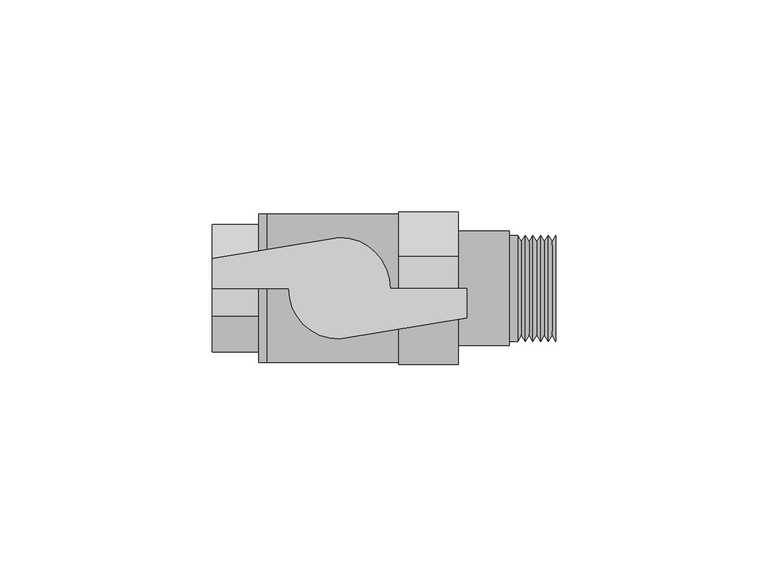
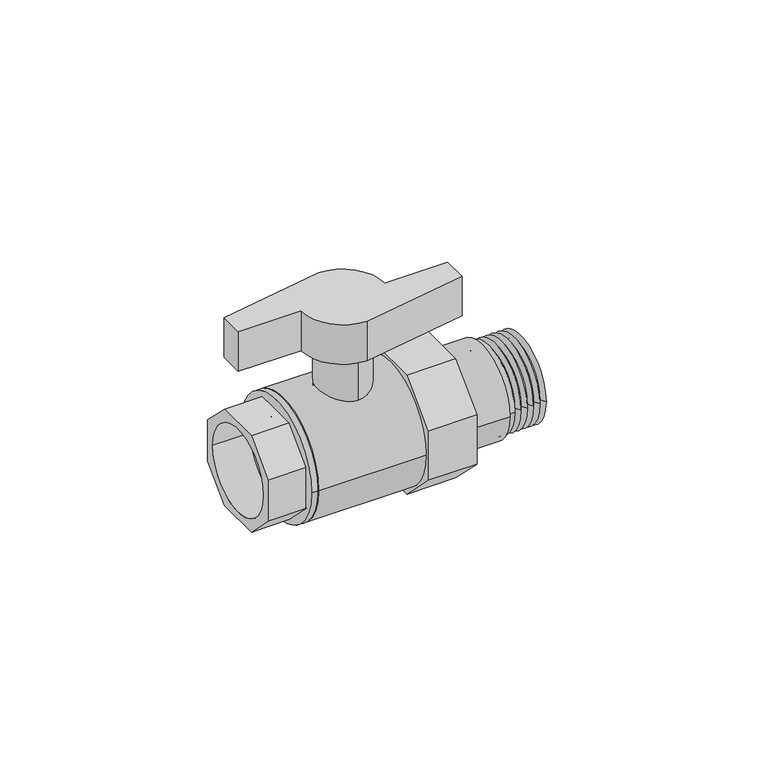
"""IFC4 building model written with IfcOpenShell, lengths in millimetres: valve geometry."""

from ifc_helpers import new_model, si_unit, point, frame, frame_2d, origin, origin_2d, place, context, project, spatial, polyline, circle_curve, trimmed, segment, composite_curve, outline, extrude, source, transform, mapped, element, save
from ifc_brep_helpers import plane_surface, cylinder_surface, revolved_surface, advanced_brep


def valve_fccc3399(model_context):
    return source(origin(), model_context, "Body", "SolidModel", [
        extrude(outline(composite_curve([segment(polyline([(0.0, 7.0), (30.0, 12.0)]), True, "CONTINUOUS"), segment(trimmed(circle_curve(frame_2d((30.0, 0.0)), 12.0), [point((30.0, 12.0))], [point((42.0, 0.0))], False, "CARTESIAN"), True, "CONTINUOUS"), segment(polyline([(42.0, 0.0), (60.0, 0.0), (60.0, -7.0), (30.0, -12.0)]), True, "CONTINUOUS"), segment(trimmed(circle_curve(frame_2d((30.0, 0.0)), 12.0), [point((30.0, -12.0))], [point((18.0, 0.0))], False, "CARTESIAN"), True, "CONTINUOUS"), segment(polyline([(18.0, 0.0), (0.0, 0.0), (0.0, 7.0)]), True, "CONTINUOUS")], self_intersect=False)), frame((0.0, 0.0, 30.0), z_axis=(0.0, 0.0, 1.0), x_axis=(1.0, 0.0, 0.0)), (0.0, 0.0, 1.0), 12.0),
        extrude(outline(composite_curve([segment(trimmed(circle_curve(frame_2d((30.0, 0.0)), 7.5), [point((30.0, 7.5))], [point((30.0, -7.5))], False, "CARTESIAN"), True, "CONTINUOUS"), segment(trimmed(circle_curve(frame_2d((30.0, 0.0)), 7.5), [point((30.0, -7.5))], [point((30.0, 7.5))], False, "CARTESIAN"), True, "CONTINUOUS")], self_intersect=False)), frame((0.0, 0.0, 10.0), z_axis=(0.0, 0.0, 1.0), x_axis=(1.0, 0.0, 0.0)), (0.0, 0.0, 1.0), 20.0),
        advanced_brep(
        [(70.0, -12.5, 0.0), (70.0, 12.5, 0.0), (70.0, -10.0, 0.0), (70.0, 10.0, 0.0), (81.0, -12.5, 0.0), (81.0, 12.5, 0.0), (81.0, -10.0, 0.0), (81.0, 10.0, 0.0), (72.0, -12.5, 0.0), (72.0, 12.5, 0.0), (80.1, -11.0, 0.0), (79.2, -12.5, 0.0), (79.2, -8.8388348, -8.8388348), (79.2, 0.0, -12.5), (79.2, 8.8388348, -8.8388348), (79.2, 12.5, 0.0), (80.1, 11.0, 0.0), (79.2, 8.8388348, 8.8388348), (79.2, 0.0, 12.5), (79.2, -8.8388348, 8.8388348), (78.3, -11.0, 0.0), (77.4, -12.5, 0.0), (77.4, -8.8388348, -8.8388348), (77.4, 0.0, -12.5), (77.4, 8.8388348, -8.8388348), (77.4, 12.5, 0.0), (78.3, 11.0, 0.0), (77.4, 8.8388348, 8.8388348), (77.4, 0.0, 12.5), (77.4, -8.8388348, 8.8388348), (76.5, -11.0, 0.0), (75.6, -12.5, 0.0), (75.6, -8.8388348, -8.8388348), (75.6, 0.0, -12.5), (75.6, 8.8388348, -8.8388348), (75.6, 12.5, 0.0), (76.5, 11.0, 0.0), (75.6, 8.8388348, 8.8388348), (75.6, 0.0, 12.5), (75.6, -8.8388348, 8.8388348), (74.7, -11.0, 0.0), (73.8, -12.5, 0.0), (73.8, -8.8388348, -8.8388348), (73.8, 0.0, -12.5), (73.8, 8.8388348, -8.8388348), (73.8, 12.5, 0.0), (74.7, 11.0, 0.0), (73.8, 8.8388348, 8.8388348), (73.8, 0.0, 12.5), (73.8, -8.8388348, 8.8388348), (72.9, -11.0, 0.0), (72.9, 11.0, 0.0)],
        [
            (0, 1, circle_curve(frame((70.0, 0.0, 0.0), z_axis=(-1.0, 0.0, 0.0), x_axis=(0.0, 1.0, 0.0)), 12.5)),
            (1, 0, circle_curve(frame((70.0, 0.0, 0.0), z_axis=(-1.0, 0.0, 0.0), x_axis=(0.0, 1.0, 0.0)), 12.5)),
            (2, 3, circle_curve(frame((70.0, 0.0, 0.0), z_axis=(1.0, 0.0, 0.0), x_axis=(0.0, 1.0, 0.0)), 10.0)),
            (3, 2, circle_curve(frame((70.0, 0.0, 0.0), z_axis=(1.0, 0.0, 0.0), x_axis=(0.0, 1.0, 0.0)), 10.0)),
            (4, 5, circle_curve(frame((81.0, 0.0, 0.0), z_axis=(1.0, 0.0, 0.0), x_axis=(0.0, 1.0, 0.0)), 12.5)),
            (5, 4, circle_curve(frame((81.0, 0.0, 0.0), z_axis=(1.0, 0.0, 0.0), x_axis=(0.0, 1.0, 0.0)), 12.5)),
            (6, 7, circle_curve(frame((81.0, 0.0, 0.0), z_axis=(-1.0, 0.0, 0.0), x_axis=(0.0, 1.0, 0.0)), 10.0)),
            (7, 6, circle_curve(frame((81.0, 0.0, 0.0), z_axis=(-1.0, 0.0, 0.0), x_axis=(0.0, 1.0, 0.0)), 10.0)),
            (0, 8),
            (8, 9, circle_curve(frame((72.0, 0.0, 0.0), z_axis=(-1.0, 0.0, 0.0), x_axis=(0.0, 1.0, 0.0)), 12.5)),
            (9, 1),
            (9, 8, circle_curve(frame((72.0, 0.0, 0.0), z_axis=(-1.0, 0.0, 0.0), x_axis=(0.0, 1.0, 0.0)), 12.5)),
            (2, 6),
            (7, 3),
            (10, 11),
            (11, 12, circle_curve(frame((79.2, 0.0, 0.0), z_axis=(1.0, 0.0, 0.0), x_axis=(0.0, 1.0, 0.0)), 12.5)),
            (12, 13, circle_curve(frame((79.2, 0.0, 0.0), z_axis=(1.0, 0.0, 0.0), x_axis=(0.0, 1.0, 0.0)), 12.5)),
            (13, 14, circle_curve(frame((79.2, 0.0, 0.0), z_axis=(1.0, 0.0, 0.0), x_axis=(0.0, 1.0, 0.0)), 12.5)),
            (14, 15, circle_curve(frame((79.2, 0.0, 0.0), z_axis=(1.0, 0.0, 0.0), x_axis=(0.0, 1.0, 0.0)), 12.5)),
            (15, 16),
            (16, 10, circle_curve(frame((80.1, 0.0, 0.0), z_axis=(-1.0, 0.0, 0.0), x_axis=(0.0, 1.0, 0.0)), 11.0)),
            (10, 16, circle_curve(frame((80.1, 0.0, 0.0), z_axis=(-1.0, 0.0, 0.0), x_axis=(0.0, 1.0, 0.0)), 11.0)),
            (15, 17, circle_curve(frame((79.2, 0.0, 0.0), z_axis=(1.0, 0.0, 0.0), x_axis=(0.0, 1.0, 0.0)), 12.5)),
            (17, 18, circle_curve(frame((79.2, 0.0, 0.0), z_axis=(1.0, 0.0, 0.0), x_axis=(0.0, 1.0, 0.0)), 12.5)),
            (18, 19, circle_curve(frame((79.2, 0.0, 0.0), z_axis=(1.0, 0.0, 0.0), x_axis=(0.0, 1.0, 0.0)), 12.5)),
            (19, 11, circle_curve(frame((79.2, 0.0, 0.0), z_axis=(1.0, 0.0, 0.0), x_axis=(0.0, 1.0, 0.0)), 12.5)),
            (16, 5),
            (4, 10),
            (20, 21),
            (21, 22, circle_curve(frame((77.4, 0.0, 0.0), z_axis=(1.0, 0.0, 0.0), x_axis=(0.0, 1.0, 0.0)), 12.5)),
            (22, 23, circle_curve(frame((77.4, 0.0, 0.0), z_axis=(1.0, 0.0, 0.0), x_axis=(0.0, 1.0, 0.0)), 12.5)),
            (23, 24, circle_curve(frame((77.4, 0.0, 0.0), z_axis=(1.0, 0.0, 0.0), x_axis=(0.0, 1.0, 0.0)), 12.5)),
            (24, 25, circle_curve(frame((77.4, 0.0, 0.0), z_axis=(1.0, 0.0, 0.0), x_axis=(0.0, 1.0, 0.0)), 12.5)),
            (25, 26),
            (26, 20, circle_curve(frame((78.3, 0.0, 0.0), z_axis=(-1.0, 0.0, 0.0), x_axis=(0.0, 1.0, 0.0)), 11.0)),
            (20, 26, circle_curve(frame((78.3, 0.0, 0.0), z_axis=(-1.0, 0.0, 0.0), x_axis=(0.0, 1.0, 0.0)), 11.0)),
            (25, 27, circle_curve(frame((77.4, 0.0, 0.0), z_axis=(1.0, 0.0, 0.0), x_axis=(0.0, 1.0, 0.0)), 12.5)),
            (27, 28, circle_curve(frame((77.4, 0.0, 0.0), z_axis=(1.0, 0.0, 0.0), x_axis=(0.0, 1.0, 0.0)), 12.5)),
            (28, 29, circle_curve(frame((77.4, 0.0, 0.0), z_axis=(1.0, 0.0, 0.0), x_axis=(0.0, 1.0, 0.0)), 12.5)),
            (29, 21, circle_curve(frame((77.4, 0.0, 0.0), z_axis=(1.0, 0.0, 0.0), x_axis=(0.0, 1.0, 0.0)), 12.5)),
            (26, 15),
            (11, 20),
            (30, 31),
            (31, 32, circle_curve(frame((75.6, 0.0, 0.0), z_axis=(1.0, 0.0, 0.0), x_axis=(0.0, 1.0, 0.0)), 12.5)),
            (32, 33, circle_curve(frame((75.6, 0.0, 0.0), z_axis=(1.0, 0.0, 0.0), x_axis=(0.0, 1.0, 0.0)), 12.5)),
            (33, 34, circle_curve(frame((75.6, 0.0, 0.0), z_axis=(1.0, 0.0, 0.0), x_axis=(0.0, 1.0, 0.0)), 12.5)),
            (34, 35, circle_curve(frame((75.6, 0.0, 0.0), z_axis=(1.0, 0.0, 0.0), x_axis=(0.0, 1.0, 0.0)), 12.5)),
            (35, 36),
            (36, 30, circle_curve(frame((76.5, 0.0, 0.0), z_axis=(-1.0, 0.0, 0.0), x_axis=(0.0, 1.0, 0.0)), 11.0)),
            (30, 36, circle_curve(frame((76.5, 0.0, 0.0), z_axis=(-1.0, 0.0, 0.0), x_axis=(0.0, 1.0, 0.0)), 11.0)),
            (35, 37, circle_curve(frame((75.6, 0.0, 0.0), z_axis=(1.0, 0.0, 0.0), x_axis=(0.0, 1.0, 0.0)), 12.5)),
            (37, 38, circle_curve(frame((75.6, 0.0, 0.0), z_axis=(1.0, 0.0, 0.0), x_axis=(0.0, 1.0, 0.0)), 12.5)),
            (38, 39, circle_curve(frame((75.6, 0.0, 0.0), z_axis=(1.0, 0.0, 0.0), x_axis=(0.0, 1.0, 0.0)), 12.5)),
            (39, 31, circle_curve(frame((75.6, 0.0, 0.0), z_axis=(1.0, 0.0, 0.0), x_axis=(0.0, 1.0, 0.0)), 12.5)),
            (36, 25),
            (21, 30),
            (40, 41),
            (41, 42, circle_curve(frame((73.8, 0.0, 0.0), z_axis=(1.0, 0.0, 0.0), x_axis=(0.0, 1.0, 0.0)), 12.5)),
            (42, 43, circle_curve(frame((73.8, 0.0, 0.0), z_axis=(1.0, 0.0, 0.0), x_axis=(0.0, 1.0, 0.0)), 12.5)),
            (43, 44, circle_curve(frame((73.8, 0.0, 0.0), z_axis=(1.0, 0.0, 0.0), x_axis=(0.0, 1.0, 0.0)), 12.5)),
            (44, 45, circle_curve(frame((73.8, 0.0, 0.0), z_axis=(1.0, 0.0, 0.0), x_axis=(0.0, 1.0, 0.0)), 12.5)),
            (45, 46),
            (46, 40, circle_curve(frame((74.7, 0.0, 0.0), z_axis=(-1.0, 0.0, 0.0), x_axis=(0.0, 1.0, 0.0)), 11.0)),
            (40, 46, circle_curve(frame((74.7, 0.0, 0.0), z_axis=(-1.0, 0.0, 0.0), x_axis=(0.0, 1.0, 0.0)), 11.0)),
            (45, 47, circle_curve(frame((73.8, 0.0, 0.0), z_axis=(1.0, 0.0, 0.0), x_axis=(0.0, 1.0, 0.0)), 12.5)),
            (47, 48, circle_curve(frame((73.8, 0.0, 0.0), z_axis=(1.0, 0.0, 0.0), x_axis=(0.0, 1.0, 0.0)), 12.5)),
            (48, 49, circle_curve(frame((73.8, 0.0, 0.0), z_axis=(1.0, 0.0, 0.0), x_axis=(0.0, 1.0, 0.0)), 12.5)),
            (49, 41, circle_curve(frame((73.8, 0.0, 0.0), z_axis=(1.0, 0.0, 0.0), x_axis=(0.0, 1.0, 0.0)), 12.5)),
            (46, 35),
            (31, 40),
            (50, 8),
            (9, 51),
            (51, 50, circle_curve(frame((72.9, 0.0, 0.0), z_axis=(-1.0, 0.0, 0.0), x_axis=(0.0, 1.0, 0.0)), 11.0)),
            (50, 51, circle_curve(frame((72.9, 0.0, 0.0), z_axis=(-1.0, 0.0, 0.0), x_axis=(0.0, 1.0, 0.0)), 11.0)),
            (51, 45),
            (41, 50),
        ],
        [
            plane_surface(frame((70.0, 0.0, 0.0), z_axis=(-1.0, 0.0, 0.0), x_axis=(0.0, 0.0, 1.0))),
            plane_surface(frame((81.0, 0.0, 0.0), z_axis=(1.0, 0.0, 0.0), x_axis=(0.0, 0.0, 1.0))),
            cylinder_surface(frame((70.0, 0.0, 0.0), z_axis=(-1.0, 0.0, 0.0), x_axis=(0.0, 1.0, 0.0)), 12.5),
            revolved_surface(polyline([(81.0, 10.0, 0.0), (70.0, 10.0, 0.0)]), (70.0, 0.0, 0.0), (1.0, 0.0, 0.0)),
            revolved_surface(polyline([(80.1, 11.0, 0.0), (79.2, 12.5, 0.0)]), (1524.0, 0.0, 0.0), (-1.0, 0.0, 0.0)),
            revolved_surface(polyline([(81.0, 12.5, 0.0), (80.1, 11.0, 0.0)]), (1524.0, 0.0, 0.0), (-1.0, 0.0, 0.0)),
            revolved_surface(polyline([(78.3, 11.0, 0.0), (77.4, 12.5, 0.0)]), (1522.2, 0.0, 0.0), (-1.0, 0.0, 0.0)),
            revolved_surface(polyline([(79.2, 12.5, 0.0), (78.3, 11.0, 0.0)]), (1522.2, 0.0, 0.0), (-1.0, 0.0, 0.0)),
            revolved_surface(polyline([(76.5, 11.0, 0.0), (75.6, 12.5, 0.0)]), (1520.4, 0.0, 0.0), (-1.0, 0.0, 0.0)),
            revolved_surface(polyline([(77.4, 12.5, 0.0), (76.5, 11.0, 0.0)]), (1520.4, 0.0, 0.0), (-1.0, 0.0, 0.0)),
            revolved_surface(polyline([(74.7, 11.0, 0.0), (73.8, 12.5, 0.0)]), (1518.6, 0.0, 0.0), (-1.0, 0.0, 0.0)),
            revolved_surface(polyline([(75.6, 12.5, 0.0), (74.7, 11.0, 0.0)]), (1518.6, 0.0, 0.0), (-1.0, 0.0, 0.0)),
            revolved_surface(polyline([(72.9, 11.0, 0.0), (72.0, 12.5, 0.0)]), (1516.8, 0.0, 0.0), (-1.0, 0.0, 0.0)),
            revolved_surface(polyline([(73.8, 12.5, 0.0), (72.9, 11.0, 0.0)]), (1516.8, 0.0, 0.0), (-1.0, 0.0, 0.0)),
        ],
        [
            (0, [[1, 2], [3, 4]]),
            (1, [[5, 6], [7, 8]]),
            (2, [[-1, 9, 10, 11]]),
            (2, [[-2, -11, 12, -9]]),
            (3, [[-3, 13, -8, 14]]),
            (3, [[-4, -14, -7, -13]]),
            (4, [[15, 16, 17, 18, 19, 20, 21]]),
            (4, [[-15, 22, -20, 23, 24, 25, 26]]),
            (5, [[-21, 27, -5, 28]]),
            (5, [[-22, -28, -6, -27]]),
            (6, [[29, 30, 31, 32, 33, 34, 35]]),
            (6, [[-29, 36, -34, 37, 38, 39, 40]]),
            (7, [[-35, 41, -19, -18, -17, -16, 42]]),
            (7, [[-36, -42, -26, -25, -24, -23, -41]]),
            (8, [[43, 44, 45, 46, 47, 48, 49]]),
            (8, [[-43, 50, -48, 51, 52, 53, 54]]),
            (9, [[-49, 55, -33, -32, -31, -30, 56]]),
            (9, [[-50, -56, -40, -39, -38, -37, -55]]),
            (10, [[57, 58, 59, 60, 61, 62, 63]]),
            (10, [[-57, 64, -62, 65, 66, 67, 68]]),
            (11, [[-63, 69, -47, -46, -45, -44, 70]]),
            (11, [[-64, -70, -54, -53, -52, -51, -69]]),
            (12, [[71, -12, 72, 73]]),
            (12, [[-71, 74, -72, -10]]),
            (13, [[-73, 75, -61, -60, -59, -58, 76]]),
            (13, [[-74, -76, -68, -67, -66, -65, -75]]),
        ],
    ),
        extrude(outline(composite_curve([segment(trimmed(circle_curve(origin_2d(), 13.5), [point((-13.5, 0.0))], [point((13.5, 0.0))], False, "CARTESIAN"), True, "CONTINUOUS"), segment(trimmed(circle_curve(origin_2d(), 13.5), [point((13.5, 0.0))], [point((-13.5, 0.0))], False, "CARTESIAN"), True, "CONTINUOUS")], self_intersect=False), holes=[composite_curve([segment(trimmed(circle_curve(origin_2d(), 10.0), [point((-10.0, 0.0))], [point((10.0, 0.0))], True, "CARTESIAN"), True, "CONTINUOUS"), segment(trimmed(circle_curve(origin_2d(), 10.0), [point((10.0, 0.0))], [point((-10.0, 0.0))], True, "CARTESIAN"), True, "CONTINUOUS")], self_intersect=False)]), frame((58.0, 0.0, 0.0), z_axis=(1.0, 0.0, 0.0), x_axis=(0.0, 1.0, 0.0)), (0.0, 0.0, 1.0), 12.0),
        extrude(outline(polyline([(-7.4558441, -18.0), (-18.0, -7.4558441), (-18.0, 7.4558441), (-7.4558441, 18.0), (7.4558441, 18.0), (18.0, 7.4558441), (18.0, -7.4558441), (7.4558441, -18.0), (-7.4558441, -18.0)]), holes=[composite_curve([segment(trimmed(circle_curve(origin_2d(), 10.0), [point((-10.0, 0.0))], [point((10.0, 0.0))], True, "CARTESIAN"), True, "CONTINUOUS"), segment(trimmed(circle_curve(origin_2d(), 10.0), [point((10.0, 0.0))], [point((-10.0, 0.0))], True, "CARTESIAN"), True, "CONTINUOUS")], self_intersect=False)]), frame((44.0, 0.0, 0.0), z_axis=(1.0, 0.0, 0.0), x_axis=(0.0, 1.0, 0.0)), (0.0, 0.0, 1.0), 14.0),
        extrude(outline(composite_curve([segment(trimmed(circle_curve(origin_2d(), 17.5), [point((-17.5, 0.0))], [point((17.5, 0.0))], False, "CARTESIAN"), True, "CONTINUOUS"), segment(trimmed(circle_curve(origin_2d(), 17.5), [point((17.5, 0.0))], [point((-17.5, 0.0))], False, "CARTESIAN"), True, "CONTINUOUS")], self_intersect=False), holes=[composite_curve([segment(trimmed(circle_curve(origin_2d(), 10.0), [point((-10.0, 0.0))], [point((10.0, 0.0))], True, "CARTESIAN"), True, "CONTINUOUS"), segment(trimmed(circle_curve(origin_2d(), 10.0), [point((10.0, 0.0))], [point((-10.0, 0.0))], True, "CARTESIAN"), True, "CONTINUOUS")], self_intersect=False)]), frame((13.0, 0.0, 0.0), z_axis=(1.0, 0.0, 0.0), x_axis=(0.0, 1.0, 0.0)), (0.0, 0.0, 1.0), 31.0),
        extrude(outline(composite_curve([segment(trimmed(circle_curve(origin_2d(), 17.5), [point((-17.5, 0.0))], [point((17.5, 0.0))], False, "CARTESIAN"), True, "CONTINUOUS"), segment(trimmed(circle_curve(origin_2d(), 17.5), [point((17.5, 0.0))], [point((-17.5, 0.0))], False, "CARTESIAN"), True, "CONTINUOUS")], self_intersect=False), holes=[composite_curve([segment(trimmed(circle_curve(origin_2d(), 10.0), [point((-10.0, 0.0))], [point((10.0, 0.0))], True, "CARTESIAN"), True, "CONTINUOUS"), segment(trimmed(circle_curve(origin_2d(), 10.0), [point((10.0, 0.0))], [point((-10.0, 0.0))], True, "CARTESIAN"), True, "CONTINUOUS")], self_intersect=False)]), frame((11.0, 0.0, 0.0), z_axis=(1.0, 0.0, 0.0), x_axis=(0.0, 1.0, 0.0)), (0.0, 0.0, 1.0), 2.0),
        extrude(outline(polyline([(-6.627417, -14.5857864), (-15.0, -6.2132034), (-15.0, 6.2132034), (-6.627417, 14.5857864), (6.627417, 14.5857864), (15.0, 6.2132034), (15.0, -6.2132034), (6.627417, -14.5857864), (-6.627417, -14.5857864)]), holes=[composite_curve([segment(trimmed(circle_curve(origin_2d(), 12.5), [point((-12.5, 0.0))], [point((12.5, 0.0))], True, "CARTESIAN"), True, "CONTINUOUS"), segment(trimmed(circle_curve(origin_2d(), 12.5), [point((12.5, 0.0))], [point((-12.5, 0.0))], True, "CARTESIAN"), True, "CONTINUOUS")], self_intersect=False)]), frame((0.0, 0.0, 0.0), z_axis=(1.0, 0.0, 0.0), x_axis=(0.0, 1.0, 0.0)), (0.0, 0.0, 1.0), 11.0),
    ])


if __name__ == "__main__":
    model = new_model("IFC4")
    model_context = context("Model", 3, world=origin())
    ifc_project = project(units=[si_unit("LENGTHUNIT", "METRE", prefix="MILLI")], contexts=[model_context])
    site = spatial("IfcSite", under=ifc_project)
    building = spatial("IfcBuilding", under=site)
    placement = place(None, origin())
    valve_shape = valve_fccc3399(model_context)
    element("IfcValve", 1, ObjectType="Superpipe Manifold Ball Valve : Superpipe Manifold Ball Valve - 1\"MT x 1”FT", at=placement, inside=building, context=model_context, shape_type="MappedRepresentation", body=[
        mapped(valve_shape, transform((0.0, 0.0, 0.0), x_axis=(1.0, 0.0, 0.0), y_axis=(0.0, 1.0, 0.0), z_axis=(0.0, 0.0, 1.0))),
    ])
    save(model, "model.ifc")
